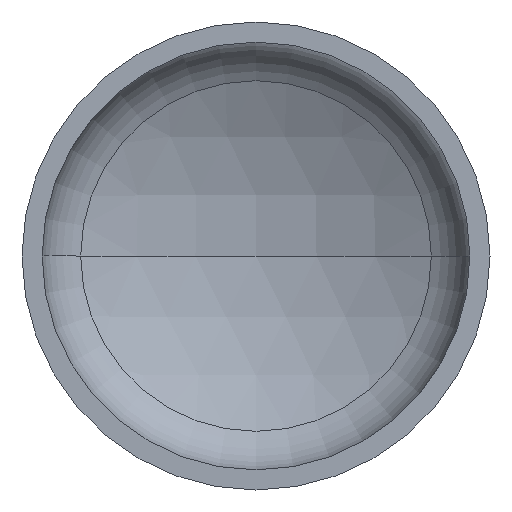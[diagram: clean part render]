
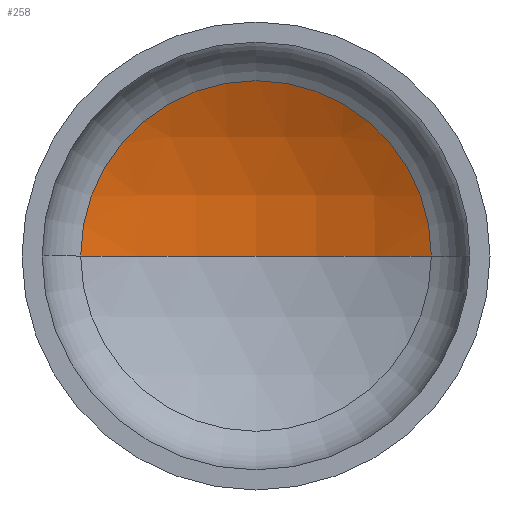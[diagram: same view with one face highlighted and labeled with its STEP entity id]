
A CAD part, front view. The second image highlights one B-rep face of the part: STEP entity #258.
In plain terms, the highlighted spherical face has radius 800 mm.
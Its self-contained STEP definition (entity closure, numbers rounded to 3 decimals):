
#10 = EDGE_LOOP ( 'NONE', ( #97, #51, #22 ) ) ;
#22 = ORIENTED_EDGE ( 'NONE', *, *, #356, .T. ) ;
#37 = DIRECTION ( 'NONE',  ( -1., 0., 0. ) ) ;
#39 = EDGE_CURVE ( 'NONE', #99, #47, #303, .T. ) ;
#40 = EDGE_CURVE ( 'NONE', #99, #71, #173, .T. ) ;
#47 = VERTEX_POINT ( 'NONE', #205 ) ;
#51 = ORIENTED_EDGE ( 'NONE', *, *, #39, .T. ) ;
#71 = VERTEX_POINT ( 'NONE', #357 ) ;
#89 = DIRECTION ( 'NONE',  ( 0., -1., 0. ) ) ;
#97 = ORIENTED_EDGE ( 'NONE', *, *, #40, .F. ) ;
#99 = VERTEX_POINT ( 'NONE', #192 ) ;
#141 = CARTESIAN_POINT ( 'NONE',  ( 0., 266.96, 0. ) ) ;
#151 = AXIS2_PLACEMENT_3D ( 'NONE', #272, #241, #37 ) ;
#173 = CIRCLE ( 'NONE', #273, 800. ) ;
#192 = CARTESIAN_POINT ( 'NONE',  ( 0., 360.069, 0. ) ) ;
#205 = CARTESIAN_POINT ( 'NONE',  ( 374.574, 266.96, 0. ) ) ;
#237 = DIRECTION ( 'NONE',  ( 1., 0., 0. ) ) ;
#241 = DIRECTION ( 'NONE',  ( 0., 0., -1. ) ) ;
#252 = CIRCLE ( 'NONE', #301, 374.574 ) ;
#258 = ADVANCED_FACE ( 'NONE', ( #348 ), #342, .F. ) ;
#260 = AXIS2_PLACEMENT_3D ( 'NONE', #371, #364, #361 ) ;
#272 = CARTESIAN_POINT ( 'NONE',  ( 0., -439.931, 0. ) ) ;
#273 = AXIS2_PLACEMENT_3D ( 'NONE', #384, #314, #310 ) ;
#301 = AXIS2_PLACEMENT_3D ( 'NONE', #141, #89, #237 ) ;
#303 = CIRCLE ( 'NONE', #260, 800. ) ;
#310 = DIRECTION ( 'NONE',  ( 1., 0., 0. ) ) ;
#314 = DIRECTION ( 'NONE',  ( 0., 0., 1. ) ) ;
#342 = SPHERICAL_SURFACE ( 'NONE', #151, 800. ) ;
#348 = FACE_OUTER_BOUND ( 'NONE', #10, .T. ) ;
#356 = EDGE_CURVE ( 'NONE', #47, #71, #252, .T. ) ;
#357 = CARTESIAN_POINT ( 'NONE',  ( -374.574, 266.96, 0. ) ) ;
#361 = DIRECTION ( 'NONE',  ( -1., 0., 0. ) ) ;
#364 = DIRECTION ( 'NONE',  ( 0., 0., -1. ) ) ;
#371 = CARTESIAN_POINT ( 'NONE',  ( 0., -439.931, 0. ) ) ;
#384 = CARTESIAN_POINT ( 'NONE',  ( 0., -439.931, 0. ) ) ;
